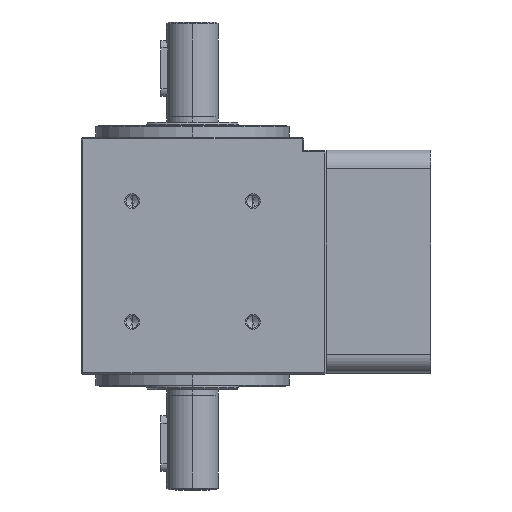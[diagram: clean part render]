
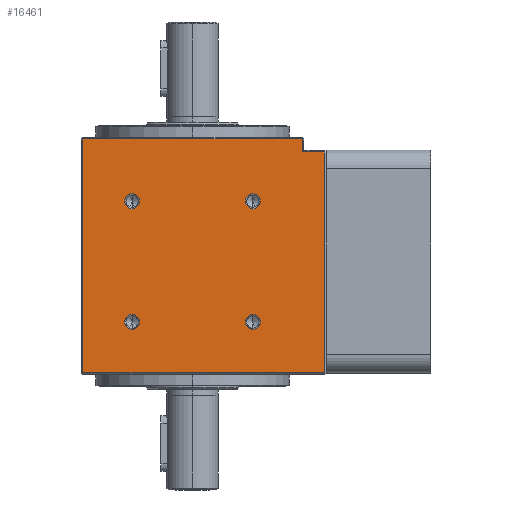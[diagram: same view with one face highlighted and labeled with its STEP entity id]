
A CAD part, left-side view. The second image highlights one B-rep face of the part: STEP entity #16461.
In plain terms, the highlighted planar face has unit normal (-1, 0, 0) as drawn and (1, 0, 0) by its records, which use the part's own axes.
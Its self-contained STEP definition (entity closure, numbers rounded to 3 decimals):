
#359 = CARTESIAN_POINT ( 'NONE',  ( 30., -16.263, 52.763 ) ) ;
#377 = CARTESIAN_POINT ( 'NONE',  ( 30., -16.263, 50.763 ) ) ;
#497 = DIRECTION ( 'NONE',  ( 1., 0., 0. ) ) ;
#584 = CIRCLE ( 'NONE', #28504, 2. ) ;
#871 = DIRECTION ( 'NONE',  ( 0., 0., -1. ) ) ;
#1273 = CIRCLE ( 'NONE', #12866, 2. ) ;
#1344 = EDGE_CURVE ( 'NONE', #19778, #1947, #30536, .T. ) ;
#1947 = VERTEX_POINT ( 'NONE', #22804 ) ;
#1948 = ORIENTED_EDGE ( 'NONE', *, *, #34048, .T. ) ;
#2741 = CARTESIAN_POINT ( 'NONE',  ( 30., -30., 7. ) ) ;
#2891 = ORIENTED_EDGE ( 'NONE', *, *, #11209, .F. ) ;
#3188 = CARTESIAN_POINT ( 'NONE',  ( 30., -16.263, 18.237 ) ) ;
#3268 = DIRECTION ( 'NONE',  ( 0., 0., -1. ) ) ;
#3330 = VERTEX_POINT ( 'NONE', #13020 ) ;
#3488 = DIRECTION ( 'NONE',  ( 0., 0., -1. ) ) ;
#3524 = LINE ( 'NONE', #13504, #9122 ) ;
#3739 = DIRECTION ( 'NONE',  ( 1., 0., 0. ) ) ;
#4177 = VERTEX_POINT ( 'NONE', #377 ) ;
#4247 = CIRCLE ( 'NONE', #27914, 2. ) ;
#4896 = FACE_BOUND ( 'NONE', #32218, .T. ) ;
#5645 = DIRECTION ( 'NONE',  ( 0., 0., -1. ) ) ;
#5885 = AXIS2_PLACEMENT_3D ( 'NONE', #359, #497, #3488 ) ;
#5916 = CIRCLE ( 'NONE', #18831, 2. ) ;
#6041 = EDGE_LOOP ( 'NONE', ( #26605, #14703 ) ) ;
#7355 = AXIS2_PLACEMENT_3D ( 'NONE', #34327, #34467, #13826 ) ;
#7580 = DIRECTION ( 'NONE',  ( 0., 0., 1. ) ) ;
#7667 = VERTEX_POINT ( 'NONE', #27605 ) ;
#7715 = CARTESIAN_POINT ( 'NONE',  ( 30., -35.5, 7. ) ) ;
#8143 = DIRECTION ( 'NONE',  ( 0., -1., 0. ) ) ;
#8260 = CARTESIAN_POINT ( 'NONE',  ( 30., -30., 70. ) ) ;
#8772 = EDGE_CURVE ( 'NONE', #32376, #36528, #4247, .T. ) ;
#8801 = CIRCLE ( 'NONE', #5885, 2. ) ;
#8978 = DIRECTION ( 'NONE',  ( 0., 1., 0. ) ) ;
#9122 = VECTOR ( 'NONE', #19473, 1000. ) ;
#9727 = ORIENTED_EDGE ( 'NONE', *, *, #8772, .F. ) ;
#9782 = LINE ( 'NONE', #28650, #21849 ) ;
#10283 = CARTESIAN_POINT ( 'NONE',  ( 30., 16.263, 22.237 ) ) ;
#10610 = VERTEX_POINT ( 'NONE', #25752 ) ;
#10695 = ORIENTED_EDGE ( 'NONE', *, *, #34442, .F. ) ;
#10856 = DIRECTION ( 'NONE',  ( 0., -1., 0. ) ) ;
#11114 = CARTESIAN_POINT ( 'NONE',  ( 30., -16.263, 54.763 ) ) ;
#11209 = EDGE_CURVE ( 'NONE', #25610, #29770, #31616, .T. ) ;
#11257 = EDGE_CURVE ( 'NONE', #10610, #7667, #9782, .T. ) ;
#12179 = CARTESIAN_POINT ( 'NONE',  ( 30., -29.5, 3.5 ) ) ;
#12758 = EDGE_CURVE ( 'NONE', #4177, #16536, #8801, .T. ) ;
#12866 = AXIS2_PLACEMENT_3D ( 'NONE', #31094, #34334, #16156 ) ;
#12940 = DIRECTION ( 'NONE',  ( 0., 0., -1. ) ) ;
#13020 = CARTESIAN_POINT ( 'NONE',  ( 30., 16.263, 50.763 ) ) ;
#13095 = VECTOR ( 'NONE', #12940, 1000. ) ;
#13316 = VECTOR ( 'NONE', #37364, 1000. ) ;
#13504 = CARTESIAN_POINT ( 'NONE',  ( 30., -29.5, 70. ) ) ;
#13710 = CARTESIAN_POINT ( 'NONE',  ( 30., -29.5, 7. ) ) ;
#13826 = DIRECTION ( 'NONE',  ( 0., 0., -1. ) ) ;
#14294 = EDGE_LOOP ( 'NONE', ( #36039, #34499, #33897, #17632, #26601, #1948 ) ) ;
#14703 = ORIENTED_EDGE ( 'NONE', *, *, #23213, .F. ) ;
#15199 = EDGE_CURVE ( 'NONE', #37383, #19778, #3524, .T. ) ;
#15752 = CIRCLE ( 'NONE', #20048, 2. ) ;
#16156 = DIRECTION ( 'NONE',  ( 0., 0., -1. ) ) ;
#16461 = ADVANCED_FACE ( 'NONE', ( #23897, #23465, #21589, #4896, #35490 ), #34838, .F. ) ;
#16536 = VERTEX_POINT ( 'NONE', #11114 ) ;
#16950 = DIRECTION ( 'NONE',  ( -1., 0., 0. ) ) ;
#16994 = EDGE_CURVE ( 'NONE', #1947, #10610, #35453, .T. ) ;
#17272 = EDGE_CURVE ( 'NONE', #18534, #37383, #27591, .T. ) ;
#17632 = ORIENTED_EDGE ( 'NONE', *, *, #16994, .T. ) ;
#17682 = DIRECTION ( 'NONE',  ( 1., 0., 0. ) ) ;
#18534 = VERTEX_POINT ( 'NONE', #7715 ) ;
#18594 = EDGE_CURVE ( 'NONE', #29770, #25610, #584, .T. ) ;
#18746 = DIRECTION ( 'NONE',  ( 1., 0., 0. ) ) ;
#18831 = AXIS2_PLACEMENT_3D ( 'NONE', #32694, #27619, #871 ) ;
#18994 = DIRECTION ( 'NONE',  ( 0., 0., -1. ) ) ;
#19473 = DIRECTION ( 'NONE',  ( 0., 0., -1. ) ) ;
#19641 = DIRECTION ( 'NONE',  ( 1., 0., 0. ) ) ;
#19778 = VERTEX_POINT ( 'NONE', #12179 ) ;
#20048 = AXIS2_PLACEMENT_3D ( 'NONE', #36503, #18746, #18994 ) ;
#20616 = VECTOR ( 'NONE', #7580, 1000. ) ;
#21051 = CARTESIAN_POINT ( 'NONE',  ( 30., 16.263, 20.237 ) ) ;
#21262 = DIRECTION ( 'NONE',  ( 0., 0., -1. ) ) ;
#21359 = EDGE_CURVE ( 'NONE', #3330, #35486, #15752, .T. ) ;
#21442 = CIRCLE ( 'NONE', #24532, 2. ) ;
#21528 = CARTESIAN_POINT ( 'NONE',  ( 30., -16.263, 52.763 ) ) ;
#21589 = FACE_BOUND ( 'NONE', #6041, .T. ) ;
#21849 = VECTOR ( 'NONE', #10856, 1000. ) ;
#22804 = CARTESIAN_POINT ( 'NONE',  ( 30., 29.5, 3.5 ) ) ;
#23213 = EDGE_CURVE ( 'NONE', #35486, #3330, #1273, .T. ) ;
#23465 = FACE_BOUND ( 'NONE', #28640, .T. ) ;
#23882 = EDGE_CURVE ( 'NONE', #36528, #32376, #5916, .T. ) ;
#23897 = FACE_OUTER_BOUND ( 'NONE', #14294, .T. ) ;
#24532 = AXIS2_PLACEMENT_3D ( 'NONE', #21528, #3739, #21262 ) ;
#25610 = VERTEX_POINT ( 'NONE', #3188 ) ;
#25613 = CARTESIAN_POINT ( 'NONE',  ( 30., 29.5, 70. ) ) ;
#25752 = CARTESIAN_POINT ( 'NONE',  ( 30., 29.5, 66.5 ) ) ;
#26107 = LINE ( 'NONE', #28025, #13095 ) ;
#26601 = ORIENTED_EDGE ( 'NONE', *, *, #11257, .T. ) ;
#26605 = ORIENTED_EDGE ( 'NONE', *, *, #21359, .F. ) ;
#27591 = LINE ( 'NONE', #2741, #28085 ) ;
#27605 = CARTESIAN_POINT ( 'NONE',  ( 30., -35.5, 66.5 ) ) ;
#27619 = DIRECTION ( 'NONE',  ( 1., 0., 0. ) ) ;
#27658 = CARTESIAN_POINT ( 'NONE',  ( 30., -16.263, 22.237 ) ) ;
#27914 = AXIS2_PLACEMENT_3D ( 'NONE', #21051, #17682, #3268 ) ;
#27916 = ORIENTED_EDGE ( 'NONE', *, *, #12758, .F. ) ;
#28025 = CARTESIAN_POINT ( 'NONE',  ( 30., -35.5, 70. ) ) ;
#28085 = VECTOR ( 'NONE', #8978, 1000. ) ;
#28504 = AXIS2_PLACEMENT_3D ( 'NONE', #28745, #19641, #5645 ) ;
#28640 = EDGE_LOOP ( 'NONE', ( #29117, #9727 ) ) ;
#28650 = CARTESIAN_POINT ( 'NONE',  ( 30., -36., 66.5 ) ) ;
#28745 = CARTESIAN_POINT ( 'NONE',  ( 30., -16.263, 20.237 ) ) ;
#29117 = ORIENTED_EDGE ( 'NONE', *, *, #23882, .F. ) ;
#29203 = CARTESIAN_POINT ( 'NONE',  ( 30., 16.263, 18.237 ) ) ;
#29770 = VERTEX_POINT ( 'NONE', #27658 ) ;
#30536 = LINE ( 'NONE', #32054, #13316 ) ;
#31094 = CARTESIAN_POINT ( 'NONE',  ( 30., 16.263, 52.763 ) ) ;
#31616 = CIRCLE ( 'NONE', #7355, 2. ) ;
#32054 = CARTESIAN_POINT ( 'NONE',  ( 30., 30., 3.5 ) ) ;
#32218 = EDGE_LOOP ( 'NONE', ( #27916, #10695 ) ) ;
#32376 = VERTEX_POINT ( 'NONE', #10283 ) ;
#32694 = CARTESIAN_POINT ( 'NONE',  ( 30., 16.263, 20.237 ) ) ;
#32814 = CARTESIAN_POINT ( 'NONE',  ( 30., 16.263, 54.763 ) ) ;
#33758 = AXIS2_PLACEMENT_3D ( 'NONE', #8260, #16950, #8143 ) ;
#33897 = ORIENTED_EDGE ( 'NONE', *, *, #1344, .T. ) ;
#34048 = EDGE_CURVE ( 'NONE', #7667, #18534, #26107, .T. ) ;
#34327 = CARTESIAN_POINT ( 'NONE',  ( 30., -16.263, 20.237 ) ) ;
#34334 = DIRECTION ( 'NONE',  ( 1., 0., 0. ) ) ;
#34442 = EDGE_CURVE ( 'NONE', #16536, #4177, #21442, .T. ) ;
#34467 = DIRECTION ( 'NONE',  ( 1., 0., 0. ) ) ;
#34499 = ORIENTED_EDGE ( 'NONE', *, *, #15199, .T. ) ;
#34838 = PLANE ( 'NONE',  #33758 ) ;
#35453 = LINE ( 'NONE', #25613, #20616 ) ;
#35486 = VERTEX_POINT ( 'NONE', #32814 ) ;
#35490 = FACE_BOUND ( 'NONE', #38000, .T. ) ;
#35753 = ORIENTED_EDGE ( 'NONE', *, *, #18594, .F. ) ;
#36039 = ORIENTED_EDGE ( 'NONE', *, *, #17272, .T. ) ;
#36503 = CARTESIAN_POINT ( 'NONE',  ( 30., 16.263, 52.763 ) ) ;
#36528 = VERTEX_POINT ( 'NONE', #29203 ) ;
#37364 = DIRECTION ( 'NONE',  ( 0., 1., 0. ) ) ;
#37383 = VERTEX_POINT ( 'NONE', #13710 ) ;
#38000 = EDGE_LOOP ( 'NONE', ( #2891, #35753 ) ) ;
